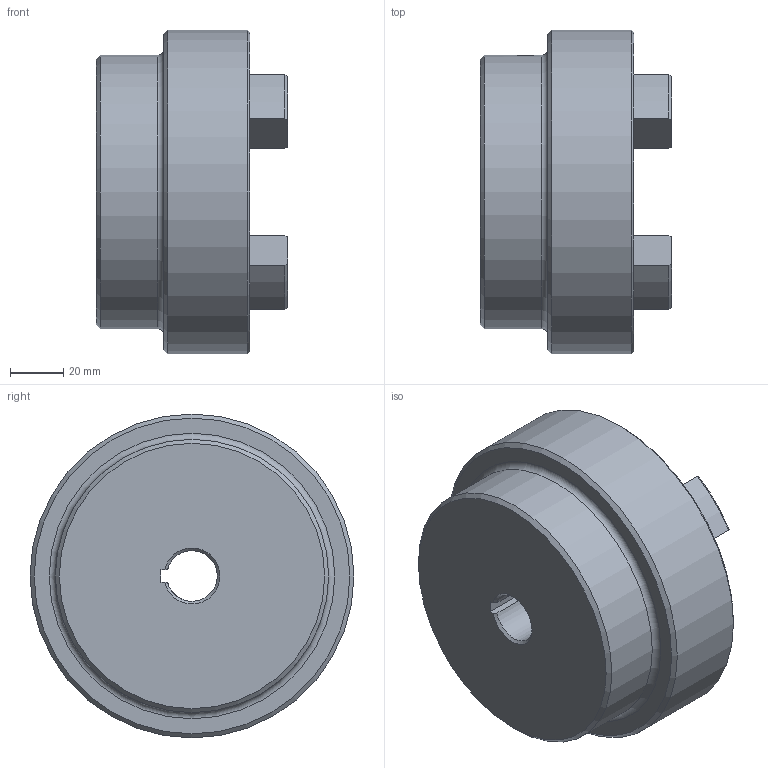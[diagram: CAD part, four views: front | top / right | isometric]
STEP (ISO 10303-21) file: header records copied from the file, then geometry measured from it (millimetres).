
FILE_DESCRIPTION (( 'STEP AP203' ), '1' );
FILE_NAME ('RC5.step', '2024-07-25T13:20:25', ( 'Adlan' ), ( '' ), 'SwSTEP 2.0', 'SolidWorks 2013', '' );
FILE_SCHEMA (( 'CONFIG_CONTROL_DESIGN' ));
Length unit declared in the file: inch
Products named in the file (1): RC5
Bounding box: 72.14 x 122.17 x 122.17 mm (x, y, z)
Volume: 465661.5 mm3; surface area: 59045.6 mm2
Topology: 1 solids, 1 shells, 86 faces, 222 edges, 139 vertices
Faces by surface type: cylinder 33, plane 22, torus 17, cone 14
Full cylindrical faces by diameter (mm): 5.105 x2, 103.124 x1, 122.174 x1
Entity records: 2883 total; most frequent: CARTESIAN_POINT 713, DIRECTION 462, ORIENTED_EDGE 416, EDGE_CURVE 208, AXIS2_PLACEMENT_3D 182, VERTEX_POINT 135, EDGE_LOOP 103, LINE 98
